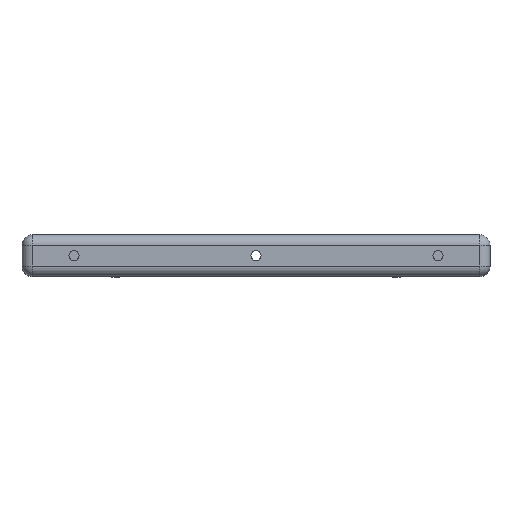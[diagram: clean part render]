
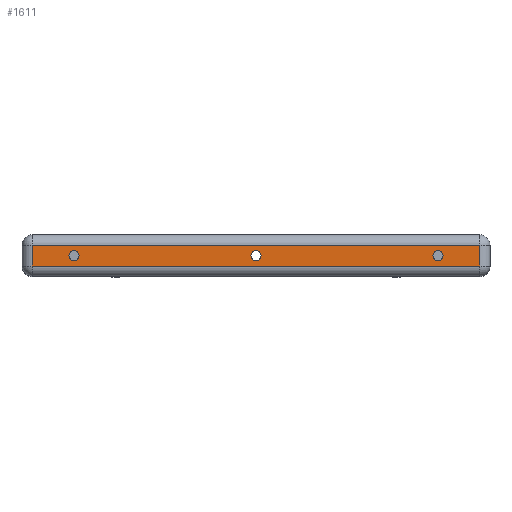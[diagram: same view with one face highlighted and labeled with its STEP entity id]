
A CAD part, top view. The second image highlights one B-rep face of the part: STEP entity #1611.
In plain terms, the highlighted planar face has unit normal (0, 0, 1).
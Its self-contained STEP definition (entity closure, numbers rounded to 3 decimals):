
#34=FACE_BOUND('',#280,.T.);
#35=FACE_BOUND('',#281,.T.);
#36=FACE_BOUND('',#282,.T.);
#51=PLANE('',#1848);
#167=FACE_OUTER_BOUND('',#279,.T.);
#279=EDGE_LOOP('',(#1371,#1372,#1373,#1374));
#280=EDGE_LOOP('',(#1375));
#281=EDGE_LOOP('',(#1376));
#282=EDGE_LOOP('',(#1377));
#370=LINE('',#2814,#473);
#376=LINE('',#2857,#479);
#390=LINE('',#2919,#493);
#393=LINE('',#2924,#496);
#473=VECTOR('',#2224,10.);
#479=VECTOR('',#2282,10.);
#493=VECTOR('',#2368,10.);
#496=VECTOR('',#2375,10.);
#582=CIRCLE('',#1754,0.975);
#583=CIRCLE('',#1756,0.975);
#584=CIRCLE('',#1758,0.975);
#721=VERTEX_POINT('',#2750);
#722=VERTEX_POINT('',#2754);
#723=VERTEX_POINT('',#2758);
#740=VERTEX_POINT('',#2810);
#741=VERTEX_POINT('',#2812);
#751=VERTEX_POINT('',#2854);
#752=VERTEX_POINT('',#2856);
#897=EDGE_CURVE('',#721,#721,#582,.T.);
#899=EDGE_CURVE('',#722,#722,#583,.T.);
#901=EDGE_CURVE('',#723,#723,#584,.T.);
#929=EDGE_CURVE('',#741,#740,#370,.T.);
#950=EDGE_CURVE('',#751,#752,#376,.T.);
#982=EDGE_CURVE('',#752,#741,#390,.T.);
#985=EDGE_CURVE('',#740,#751,#393,.T.);
#1371=ORIENTED_EDGE('',*,*,#950,.F.);
#1372=ORIENTED_EDGE('',*,*,#985,.F.);
#1373=ORIENTED_EDGE('',*,*,#929,.F.);
#1374=ORIENTED_EDGE('',*,*,#982,.F.);
#1375=ORIENTED_EDGE('',*,*,#897,.T.);
#1376=ORIENTED_EDGE('',*,*,#899,.T.);
#1377=ORIENTED_EDGE('',*,*,#901,.T.);
#1611=ADVANCED_FACE('',(#167,#34,#35,#36),#51,.T.);
#1754=AXIS2_PLACEMENT_3D('',#2751,#2150,#2151);
#1756=AXIS2_PLACEMENT_3D('',#2755,#2155,#2156);
#1758=AXIS2_PLACEMENT_3D('',#2759,#2160,#2161);
#1848=AXIS2_PLACEMENT_3D('',#2923,#2373,#2374);
#2150=DIRECTION('center_axis',(0.,0.,-1.));
#2151=DIRECTION('ref_axis',(-1.,0.,0.));
#2155=DIRECTION('center_axis',(0.,0.,-1.));
#2156=DIRECTION('ref_axis',(-1.,0.,0.));
#2160=DIRECTION('center_axis',(0.,0.,-1.));
#2161=DIRECTION('ref_axis',(-1.,0.,0.));
#2224=DIRECTION('',(1.,0.,0.));
#2282=DIRECTION('',(-1.,0.,0.));
#2368=DIRECTION('',(0.,1.,0.));
#2373=DIRECTION('center_axis',(0.,0.,1.));
#2374=DIRECTION('ref_axis',(1.,0.,0.));
#2375=DIRECTION('',(0.,-1.,0.));
#2750=CARTESIAN_POINT('',(10.475,0.,72.75));
#2751=CARTESIAN_POINT('Origin',(9.5,0.,
72.75));
#2754=CARTESIAN_POINT('',(-24.525,0.,72.75));
#2755=CARTESIAN_POINT('Origin',(-25.5,0.,72.75));
#2758=CARTESIAN_POINT('',(-59.525,0.,72.75));
#2759=CARTESIAN_POINT('Origin',(-60.5,0.,72.75));
#2810=CARTESIAN_POINT('',(17.5,2.,72.75));
#2812=CARTESIAN_POINT('',(-68.5,2.,72.75));
#2814=CARTESIAN_POINT('',(-12.75,2.,72.75));
#2854=CARTESIAN_POINT('',(17.5,-2.,72.75));
#2856=CARTESIAN_POINT('',(-68.5,-2.,72.75));
#2857=CARTESIAN_POINT('',(-12.75,-2.,72.75));
#2919=CARTESIAN_POINT('',(-68.5,-4.,72.75));
#2923=CARTESIAN_POINT('Origin',(-25.5,-4.,72.75));
#2924=CARTESIAN_POINT('',(17.5,-4.,72.75));
